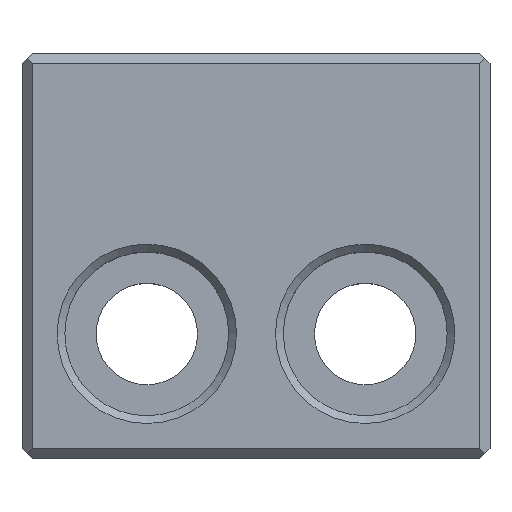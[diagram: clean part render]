
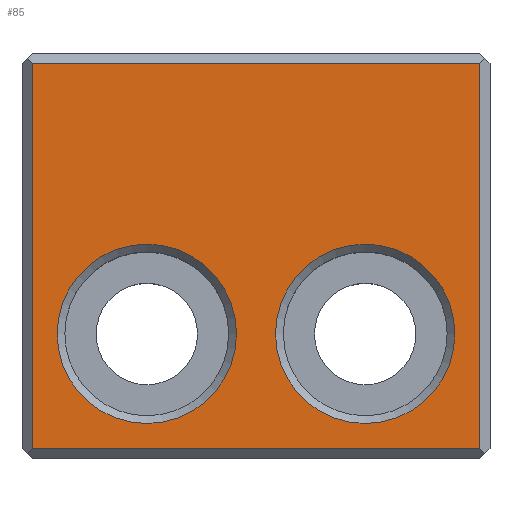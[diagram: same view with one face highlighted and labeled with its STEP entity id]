
A CAD part, top view. The second image highlights one B-rep face of the part: STEP entity #85.
In plain terms, the highlighted planar face has unit normal (0, 0, 1).
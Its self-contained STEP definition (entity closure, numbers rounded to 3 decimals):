
#85 = ADVANCED_FACE( '', ( #178, #179, #180 ), #181, .T. );
#178 = FACE_BOUND( '', #269, .T. );
#179 = FACE_BOUND( '', #270, .T. );
#180 = FACE_OUTER_BOUND( '', #271, .T. );
#181 = PLANE( '', #272 );
#269 = EDGE_LOOP( '', ( #442 ) );
#270 = EDGE_LOOP( '', ( #443 ) );
#271 = EDGE_LOOP( '', ( #444, #445, #446, #447 ) );
#272 = AXIS2_PLACEMENT_3D( '', #448, #449, #450 );
#442 = ORIENTED_EDGE( '', *, *, #539, .F. );
#443 = ORIENTED_EDGE( '', *, *, #523, .F. );
#444 = ORIENTED_EDGE( '', *, *, #540, .T. );
#445 = ORIENTED_EDGE( '', *, *, #527, .T. );
#446 = ORIENTED_EDGE( '', *, *, #520, .F. );
#447 = ORIENTED_EDGE( '', *, *, #511, .F. );
#448 = CARTESIAN_POINT( '', ( 0., 0., 13. ) );
#449 = DIRECTION( '', ( 0., 0., 1. ) );
#450 = DIRECTION( '', ( 1., 0., 0. ) );
#511 = EDGE_CURVE( '', #605, #607, #608, .T. );
#520 = EDGE_CURVE( '', #607, #621, #622, .T. );
#523 = EDGE_CURVE( '', #625, #625, #626, .T. );
#527 = EDGE_CURVE( '', #631, #621, #632, .T. );
#539 = EDGE_CURVE( '', #645, #645, #646, .T. );
#540 = EDGE_CURVE( '', #605, #631, #647, .T. );
#605 = VERTEX_POINT( '', #733 );
#607 = VERTEX_POINT( '', #736 );
#608 = LINE( '', #737, #738 );
#621 = VERTEX_POINT( '', #755 );
#622 = LINE( '', #756, #757 );
#625 = VERTEX_POINT( '', #761 );
#626 = CIRCLE( '', #762, 5.75 );
#631 = VERTEX_POINT( '', #767 );
#632 = LINE( '', #768, #769 );
#645 = VERTEX_POINT( '', #787 );
#646 = CIRCLE( '', #788, 5.75 );
#647 = LINE( '', #789, #790 );
#733 = CARTESIAN_POINT( '', ( 21.35, 17.35, 13. ) );
#736 = CARTESIAN_POINT( '', ( 21.35, -7.35, 13. ) );
#737 = CARTESIAN_POINT( '', ( 21.35, 18., 13. ) );
#738 = VECTOR( '', #837, 1000. );
#755 = CARTESIAN_POINT( '', ( -7.35, -7.35, 13. ) );
#756 = CARTESIAN_POINT( '', ( 37., -7.35, 13. ) );
#757 = VECTOR( '', #848, 1000. );
#761 = CARTESIAN_POINT( '', ( 19.75, 0., 13. ) );
#762 = AXIS2_PLACEMENT_3D( '', #850, #851, #852 );
#767 = CARTESIAN_POINT( '', ( -7.35, 17.35, 13. ) );
#768 = CARTESIAN_POINT( '', ( -7.35, 18., 13. ) );
#769 = VECTOR( '', #856, 1000. );
#787 = CARTESIAN_POINT( '', ( 5.75, 0., 13. ) );
#788 = AXIS2_PLACEMENT_3D( '', #862, #863, #864 );
#789 = CARTESIAN_POINT( '', ( 37., 17.35, 13. ) );
#790 = VECTOR( '', #865, 1000. );
#837 = DIRECTION( '', ( 0., -1., 0. ) );
#848 = DIRECTION( '', ( -1., 0., 0. ) );
#850 = CARTESIAN_POINT( '', ( 14., 0., 13. ) );
#851 = DIRECTION( '', ( 0., 0., 1. ) );
#852 = DIRECTION( '', ( 1., 0., 0. ) );
#856 = DIRECTION( '', ( 0., -1., 0. ) );
#862 = CARTESIAN_POINT( '', ( 0., 0., 13. ) );
#863 = DIRECTION( '', ( 0., 0., 1. ) );
#864 = DIRECTION( '', ( 1., 0., 0. ) );
#865 = DIRECTION( '', ( -1., 0., 0. ) );
